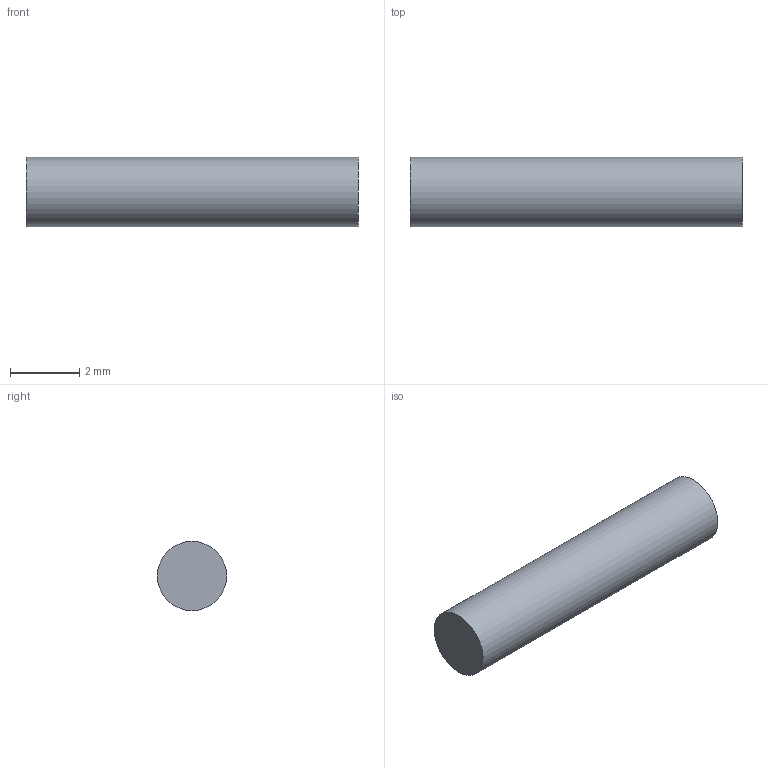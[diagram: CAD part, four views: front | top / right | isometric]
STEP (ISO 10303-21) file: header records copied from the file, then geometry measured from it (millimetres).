
FILE_DESCRIPTION(('Open CASCADE Model'),'2;1');
FILE_NAME('Open CASCADE Shape Model','2026-10-23T00:29:42',('Author'),( 'Open CASCADE'),'Open CASCADE STEP processor 7.9','Open CASCADE 7.9' ,'Unknown');
FILE_SCHEMA(('AUTOMOTIVE_DESIGN { 1 0 10303 214 1 1 1 1 }'));
Length unit declared in the file: millimetre
Products named in the file (1): Open CASCADE STEP translator 7.9 5
Bounding box: 9.6 x 2 x 2 mm (x, y, z)
Volume: 30.2 mm3; surface area: 66.6 mm2
Topology: 1 solids, 1 shells, 3 faces, 3 edges, 2 vertices
Faces by surface type: plane 2, cylinder 1
Full cylindrical faces by diameter (mm): 2 x1
Entity records: 108 total; most frequent: DIRECTION 19, CARTESIAN_POINT 15, AXIS2_PLACEMENT_3D 6, ORIENTED_EDGE 6, PCURVE 6, DEFINITIONAL_REPRESENTATION 6, LINE 5, VECTOR 5
